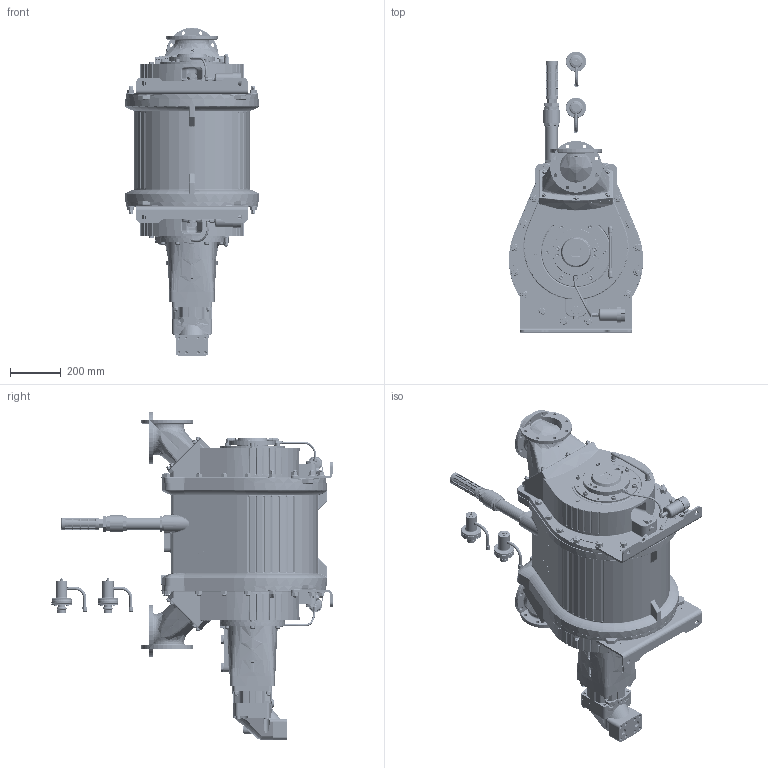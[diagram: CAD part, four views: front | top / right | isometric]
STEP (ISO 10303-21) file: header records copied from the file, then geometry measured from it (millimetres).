
FILE_DESCRIPTION(/* description */ (''),/* implementation_level */ '2;1');
FILE_NAME(/* name */ '1700165.stp',/* time_stamp */ '2026-04-22T13:18:35+02:00',/* author */ ('JJ'),/* organization */ (''),/* preprocessor_version */ 'ST-DEVELOPER v20',/* originating_system */ 'Autodesk Inventor 2025',/* authorisation */ '');
FILE_SCHEMA (('AUTOMOTIVE_DESIGN { 1 0 10303 214 3 1 1 }'));
Products named in the file (72): 1700165; 1659021; 1659049; 910100170; 910200008; 1634823; 1634808; 922000270; 910100021; 910100161; 944600276; 1659046; 1659095; 915000217; 1634773; 915000215; 915000217_1; 915000232; 910300487; 910100191; 915000225; 915000225-part1; 915000225-part2; 944600240; 915000050; 1634824; 1634809; 922000269; 925000587; 925000590; 944600356; 944600355; 1659017; 1659069; 1634666; 1634667; 1634668; 1634130; 1634131; 1634670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
Assembly tree (203 placements, depth 4):
  1700165
    1659017  x4
    1659069  x4
    1659021  x2
    910100021  x34
    910100161  x34
    910100170  x12
    910200008  x12
    1634823  x2
      1634808
      922000270
    1634826  x2
      1634811
      922000266
    1659049  x2
    944600276  x4
    1659046  x2
    1634824  x2
      1634809
      922000269
    1659095
    910300487  x2
    910100191  x2
    944600240  x2
    915000232  x2
    915000225  x2
      915000225-part1
      915000225-part2
    915000217
    1634773  x2
    915000215  x2
    915000217_1
    915000050
    925000587
    925000590
    944600356
    944600355
    1634666  x2
      1634667
      1634668
      1634130
      1634131
      1634670
      1634134
      910200105
      910100125
      910300428
      921000047
      922100045
      922100339
      1634669
      925000651
      910300012
    925000862  x2
    927000134-TM2500  x2
    1659079_Simplify_body
    1636087
      1636088
      922000307
    1659104
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Bounding box: 529.22 x 1107.24 x 1294.1 mm (x, y, z)
Volume: 157736066 mm3; surface area: 6727466.4 mm2
Topology: 221 solids, 240 shells, 11893 faces, 30686 edges, 19801 vertices
Faces by surface type: plane 4506, bspline 3166, cylinder 2642, cone 988, torus 406, sphere 185
Full cylindrical faces by diameter (mm): 1.5 x16, 3.2 x4, 3.3 x4, 3.5 x4, 4 x3, 4.134 x4, 4.917 x2, 4.92 x10, 5 x2, 5.3 x2, 6 x46, 6.1 x2, 6.4 x2, 6.5 x8, 8 x38, 8.376 x14, 8.4 x2, 8.5 x4, 8.57 x2, 9.2 x2, 9.7 x2, 9.8 x4, 10 x188, 10.106 x25, 10.5 x12, 11 x66, 11.18 x2, 11.3 x4, 11.445 x2, 12 x150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
Entity records: 507220 total; most frequent: CARTESIAN_POINT 340438, ORIENTED_EDGE 36410, DIRECTION 27916, EDGE_CURVE 18205, VERTEX_POINT 11727, AXIS2_PLACEMENT_3D 10147, EDGE_LOOP 8038, LINE 7622
